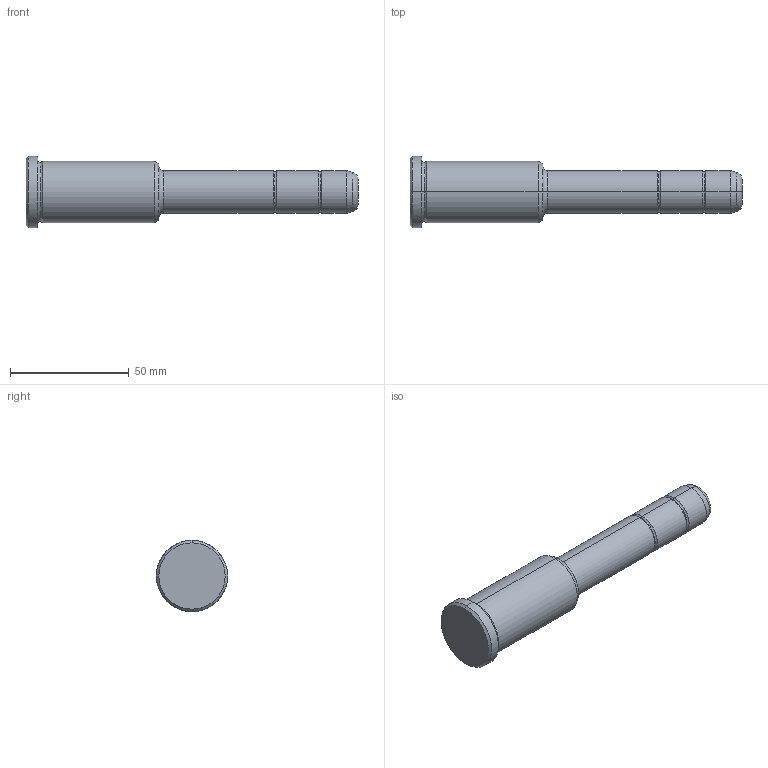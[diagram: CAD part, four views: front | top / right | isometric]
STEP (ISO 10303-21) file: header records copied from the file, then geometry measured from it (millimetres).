
FILE_DESCRIPTION(('CATIA V5 STEP Exchange'),'2;1');
FILE_NAME('C:\Users\Utente\Desktop\IO LAVORO\3D X SITO CF\X SITO\PLASTICA\351\351-18X56X140.stp','2021-08-19T12:50:45+00:00',('none'),('none'),'CATIA Version 5 Release 20 GA (IN-10)','CATIA V5 STEP AP203','none');
FILE_SCHEMA(('CONFIG_CONTROL_DESIGN'));
Length unit declared in the file: millimetre
Products named in the file (1): 351-18X56X140
Bounding box: 140 x 30 x 30 mm (x, y, z)
Volume: 51554.9 mm3; surface area: 10570.4 mm2
Topology: 1 solids, 1 shells, 36 faces, 102 edges, 70 vertices
Faces by surface type: torus 16, cylinder 10, cone 6, plane 4
Entity records: 1292 total; most frequent: CARTESIAN_POINT 321, ORIENTED_EDGE 204, DIRECTION 166, AXIS2_PLACEMENT_3D 115, EDGE_CURVE 102, CIRCLE 78, VERTEX_POINT 70, EDGE_LOOP 38
